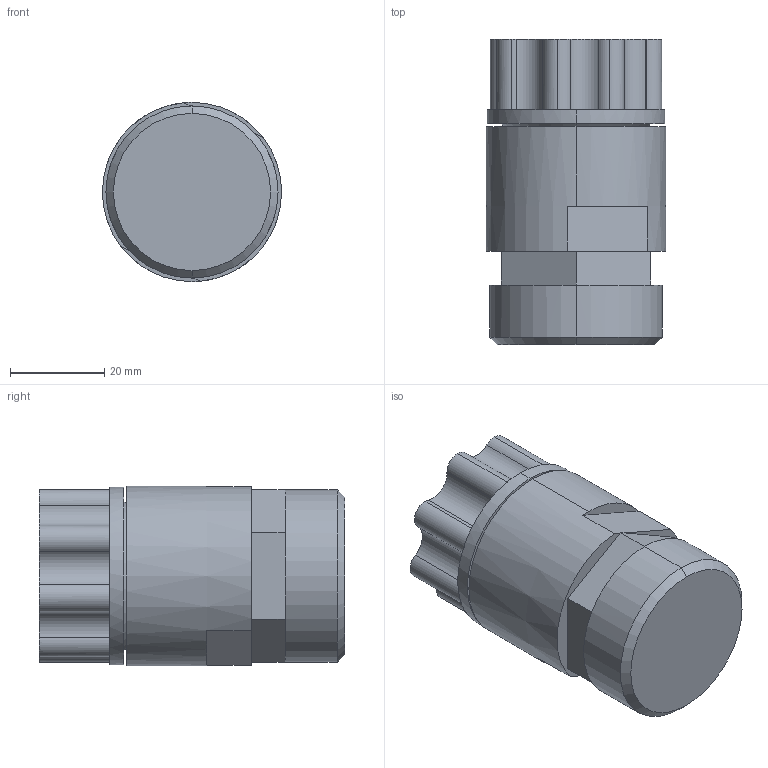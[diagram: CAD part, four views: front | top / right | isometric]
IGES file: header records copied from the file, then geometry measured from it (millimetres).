
Start section: SolidWorks IGES file using analytic representation for surfaces
Global section: file name: S:\Product Visuals\REVISED-30L-TOP-MOUNT-FITTINGS\IGS\top-straight-outlet-only\synchro-flare\12-synchro-flare-with-top-mount-adapter.IGS; native system: SolidWorks 2012; preprocessor: SolidWorks 2012; author: rachel.dressel; date: 121127.161923; units: inch
Bounding box: 38.1 x 64.9 x 38.1 mm (x, y, z)
Volume: 64645.8 mm3; surface area: 11313.8 mm2
Topology: 1 solids, 1 shells, 74 faces, 181 edges, 112 vertices
Faces by surface type: plane 39, revolution 35
